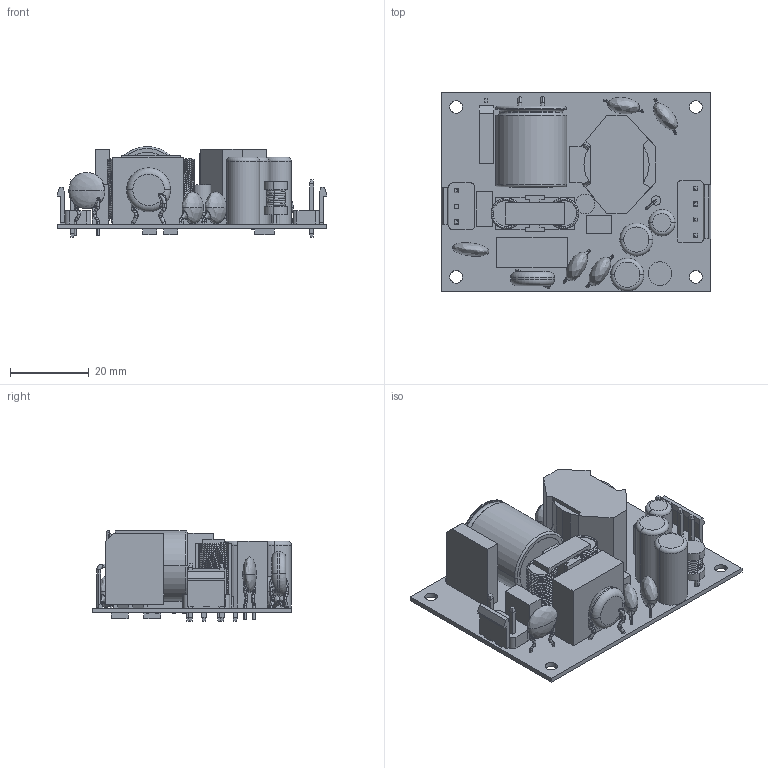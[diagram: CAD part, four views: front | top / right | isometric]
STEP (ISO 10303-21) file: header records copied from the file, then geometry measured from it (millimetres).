
FILE_DESCRIPTION (( 'STEP AP203' ), '1' );
FILE_NAME ('CFM41S低壓輸出 SPEC-T(02).STEP', '2019-06-05T08:58:23', ( 'cincon' ), ( '' ), 'SwSTEP 2.0', 'SolidWorks 2017', '' );
FILE_SCHEMA (( 'CONFIG_CONTROL_DESIGN' ));
Length unit declared in the file: millimetre
Products named in the file (11): 變壓器; CFM40M UZ1 990210; CFM41S 4PIN 插座-1051101; CFM41 ´¡2PIN 3PIN´¡®y990209; 電容(18X21.5); CFM41S_PCB-T; 電感-雙線圈; CFM40M CY1 990210; CFM41S低壓輸出 SPEC-T(02); CFM40M UZ2 990210; 電感
Assembly tree (13 placements, depth 2):
  CFM41S低壓輸出 SPEC-T(02)
    CFM41S_PCB-T
    CFM40M CY1 990210  x4
    CFM40M UZ2 990210
    電感
    變壓器
    CFM40M UZ1 990210
    CFM41S 4PIN 插座-1051101
    CFM41 ´¡2PIN 3PIN´¡®y990209
    電容(18X21.5)
    電感-雙線圈
Bounding box: 68.58 x 50.8 x 23.09 mm (x, y, z)
Volume: 27981.2 mm3; surface area: 21686 mm2
Topology: 13 solids, 13 shells, 801 faces, 2420 edges, 1584 vertices
Faces by surface type: plane 434, cylinder 181, bspline 114, torus 72
Entity records: 66010 total; most frequent: CARTESIAN_POINT 45196, ORIENTED_EDGE 4500, DIRECTION 3519, EDGE_CURVE 2250, VERTEX_POINT 1482, LINE 1177, VECTOR 1177, AXIS2_PLACEMENT_3D 1171
